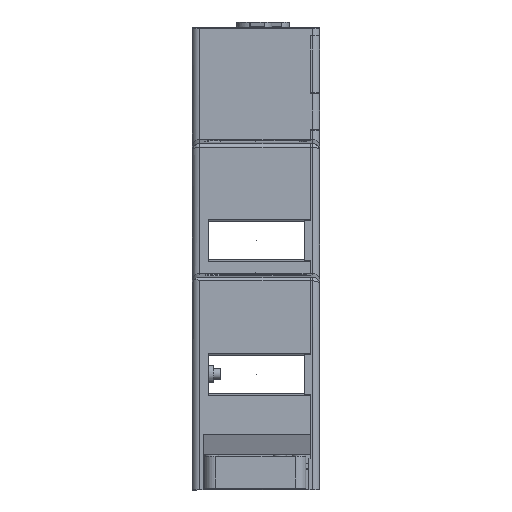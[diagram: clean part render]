
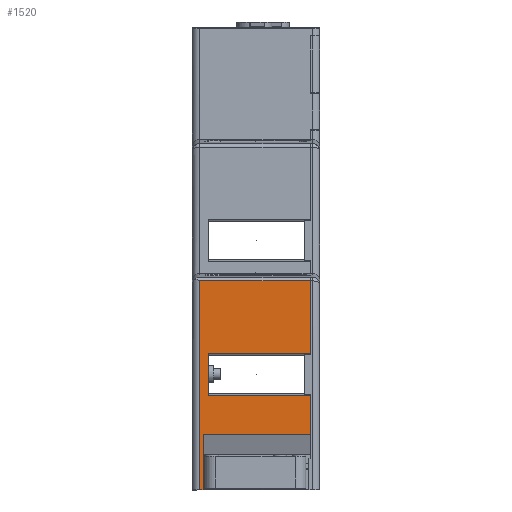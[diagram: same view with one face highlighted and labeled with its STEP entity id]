
A CAD part, left-side view. The second image highlights one B-rep face of the part: STEP entity #1520.
In plain terms, the highlighted planar face has unit normal (-1, 0, 0).
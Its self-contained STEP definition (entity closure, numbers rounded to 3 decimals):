
#1520 = ADVANCED_FACE( '', ( #4391 ), #4392, .T. );
#4391 = FACE_OUTER_BOUND( '', #8723, .T. );
#4392 = PLANE( '', #8724 );
#8723 = EDGE_LOOP( '', ( #13884, #13885, #13886, #13887, #13888, #13889, #13890, #13891, #13892, #13893 ) );
#8724 = AXIS2_PLACEMENT_3D( '', #13894, #13895, #13896 );
#13884 = ORIENTED_EDGE( '', *, *, #27286, .T. );
#13885 = ORIENTED_EDGE( '', *, *, #27287, .T. );
#13886 = ORIENTED_EDGE( '', *, *, #27288, .T. );
#13887 = ORIENTED_EDGE( '', *, *, #27289, .T. );
#13888 = ORIENTED_EDGE( '', *, *, #27290, .T. );
#13889 = ORIENTED_EDGE( '', *, *, #27291, .T. );
#13890 = ORIENTED_EDGE( '', *, *, #27292, .T. );
#13891 = ORIENTED_EDGE( '', *, *, #27293, .T. );
#13892 = ORIENTED_EDGE( '', *, *, #27294, .T. );
#13893 = ORIENTED_EDGE( '', *, *, #27295, .T. );
#13894 = CARTESIAN_POINT( '', ( -44.998, 1.493, -3.003 ) );
#13895 = DIRECTION( '', ( -1., 0., 0. ) );
#13896 = DIRECTION( '', ( 0., 0., 1. ) );
#27286 = EDGE_CURVE( '', #32765, #32766, #32767, .T. );
#27287 = EDGE_CURVE( '', #32766, #32768, #32769, .T. );
#27288 = EDGE_CURVE( '', #32768, #32770, #32771, .T. );
#27289 = EDGE_CURVE( '', #32770, #32772, #32773, .T. );
#27290 = EDGE_CURVE( '', #32772, #32774, #32775, .T. );
#27291 = EDGE_CURVE( '', #32774, #32776, #32777, .T. );
#27292 = EDGE_CURVE( '', #32776, #32778, #32779, .T. );
#27293 = EDGE_CURVE( '', #32778, #32780, #32781, .T. );
#27294 = EDGE_CURVE( '', #32780, #32782, #32783, .T. );
#27295 = EDGE_CURVE( '', #32782, #32765, #32784, .T. );
#32765 = VERTEX_POINT( '', #40825 );
#32766 = VERTEX_POINT( '', #40826 );
#32767 = LINE( '', #40827, #40828 );
#32768 = VERTEX_POINT( '', #40829 );
#32769 = LINE( '', #40830, #40831 );
#32770 = VERTEX_POINT( '', #40832 );
#32771 = LINE( '', #40833, #40834 );
#32772 = VERTEX_POINT( '', #40835 );
#32773 = LINE( '', #40836, #40837 );
#32774 = VERTEX_POINT( '', #40838 );
#32775 = LINE( '', #40839, #40840 );
#32776 = VERTEX_POINT( '', #40841 );
#32777 = LINE( '', #40842, #40843 );
#32778 = VERTEX_POINT( '', #40844 );
#32779 = LINE( '', #40845, #40846 );
#32780 = VERTEX_POINT( '', #40847 );
#32781 = LINE( '', #40848, #40849 );
#32782 = VERTEX_POINT( '', #40850 );
#32783 = LINE( '', #40851, #40852 );
#32784 = LINE( '', #40853, #40854 );
#40825 = CARTESIAN_POINT( '', ( -44.998, -1.14, -22.123 ) );
#40826 = CARTESIAN_POINT( '', ( -44.998, -1.14, -16.131 ) );
#40827 = CARTESIAN_POINT( '', ( -44.998, -1.14, -3.673 ) );
#40828 = VECTOR( '', #52000, 1000. );
#40829 = CARTESIAN_POINT( '', ( -44.998, -15.63, -16.131 ) );
#40830 = CARTESIAN_POINT( '', ( -44.998, 1.493, -16.131 ) );
#40831 = VECTOR( '', #52001, 1000. );
#40832 = CARTESIAN_POINT( '', ( -44.998, -15.63, -5.907 ) );
#40833 = CARTESIAN_POINT( '', ( -44.998, -15.63, -3.003 ) );
#40834 = VECTOR( '', #52002, 1000. );
#40835 = CARTESIAN_POINT( '', ( -44.998, 0.07, -5.907 ) );
#40836 = CARTESIAN_POINT( '', ( -44.998, 1.493, -5.907 ) );
#40837 = VECTOR( '', #52003, 1000. );
#40838 = CARTESIAN_POINT( '', ( -44.998, 0.07, -35.503 ) );
#40839 = CARTESIAN_POINT( '', ( -44.998, 0.07, -35.503 ) );
#40840 = VECTOR( '', #52004, 1000. );
#40841 = CARTESIAN_POINT( '', ( -44.998, -0.447, -35.503 ) );
#40842 = CARTESIAN_POINT( '', ( -44.998, 107.346, -35.503 ) );
#40843 = VECTOR( '', #52005, 1000. );
#40844 = CARTESIAN_POINT( '', ( -44.998, -0.447, -27.7 ) );
#40845 = CARTESIAN_POINT( '', ( -44.998, -0.447, -27.701 ) );
#40846 = VECTOR( '', #52006, 1000. );
#40847 = CARTESIAN_POINT( '', ( -44.998, -15.63, -27.7 ) );
#40848 = CARTESIAN_POINT( '', ( -44.998, -0.547, -27.7 ) );
#40849 = VECTOR( '', #52007, 1000. );
#40850 = CARTESIAN_POINT( '', ( -44.998, -15.63, -22.123 ) );
#40851 = CARTESIAN_POINT( '', ( -44.998, -15.63, -3.003 ) );
#40852 = VECTOR( '', #52008, 1000. );
#40853 = CARTESIAN_POINT( '', ( -44.998, 1.493, -22.123 ) );
#40854 = VECTOR( '', #52009, 1000. );
#52000 = DIRECTION( '', ( 0., 0., 1. ) );
#52001 = DIRECTION( '', ( 0., -1., 0. ) );
#52002 = DIRECTION( '', ( 0., 0., 1. ) );
#52003 = DIRECTION( '', ( 0., 1., 0. ) );
#52004 = DIRECTION( '', ( 0., 0., -1. ) );
#52005 = DIRECTION( '', ( 0., -1., 0. ) );
#52006 = DIRECTION( '', ( 0., 0., 1. ) );
#52007 = DIRECTION( '', ( 0., -1., 0. ) );
#52008 = DIRECTION( '', ( 0., 0., 1. ) );
#52009 = DIRECTION( '', ( 0., 1., 0. ) );
